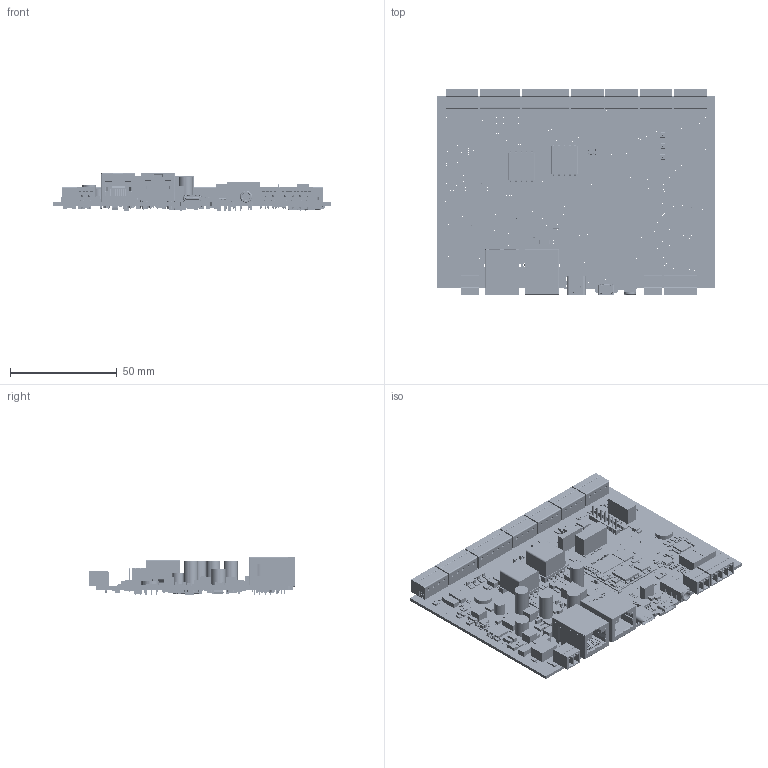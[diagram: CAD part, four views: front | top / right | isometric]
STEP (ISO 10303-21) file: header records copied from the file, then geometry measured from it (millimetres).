
FILE_DESCRIPTION(/* description */ (''),/* implementation_level */ '2;1');
FILE_NAME(/* name */ 'R:\dataCAD\Projekte_PX\VoiceInterconnect\1 952 1824\1 952 1824.stp',/* time_stamp */ '2021-06-09T15:01:07+02:00',/* author */ ('sperl'),/* organization */ (''),/* preprocessor_version */ 'ST-DEVELOPER v18.1',/* originating_system */ 'Autodesk Inventor 2021',/* authorisation */ '');
FILE_SCHEMA (('AUTOMOTIVE_DESIGN { 1 0 10303 214 3 1 1 }'));
Products named in the file (2): Baugruppe1; 1 952 1824
Assembly tree (1 placements, depth 2):
  Baugruppe1
    1 952 1824
Bounding box: 130 x 96.6 x 18.16 mm (x, y, z)
Surface area: 74756.2 mm2 (no closed solid volume)
Topology: 0 solids, 1924 shells, 21218 faces, 51331 edges, 34348 vertices
Faces by surface type: plane 17494, cylinder 3293, bspline 209, torus 90, sphere 70, cone 62
Full cylindrical faces by diameter (mm): 0.2 x603, 0.3 x190, 0.4 x77, 0.45 x4, 0.457 x10, 0.6 x14, 0.7 x10, 0.8 x5, 0.9 x23, 1 x37, 1.1 x2, 1.2 x78, 1.25 x39, 1.6 x32, 1.7 x4, 3.2 x4, 3.4 x4, 3.6 x1, 4.5 x4, 4.6 x2, 5.2 x3, 5.6 x1, 6.5 x4, 6.8 x3, 7 x4, 8.481 x2, 8.5 x6
Entity records: 658236 total; most frequent: CARTESIAN_POINT 130237, ORIENTED_EDGE 102370, DIRECTION 102246, EDGE_CURVE 51185, LINE 41334, VECTOR 41334, VERTEX_POINT 34238, AXIS2_PLACEMENT_3D 30456
